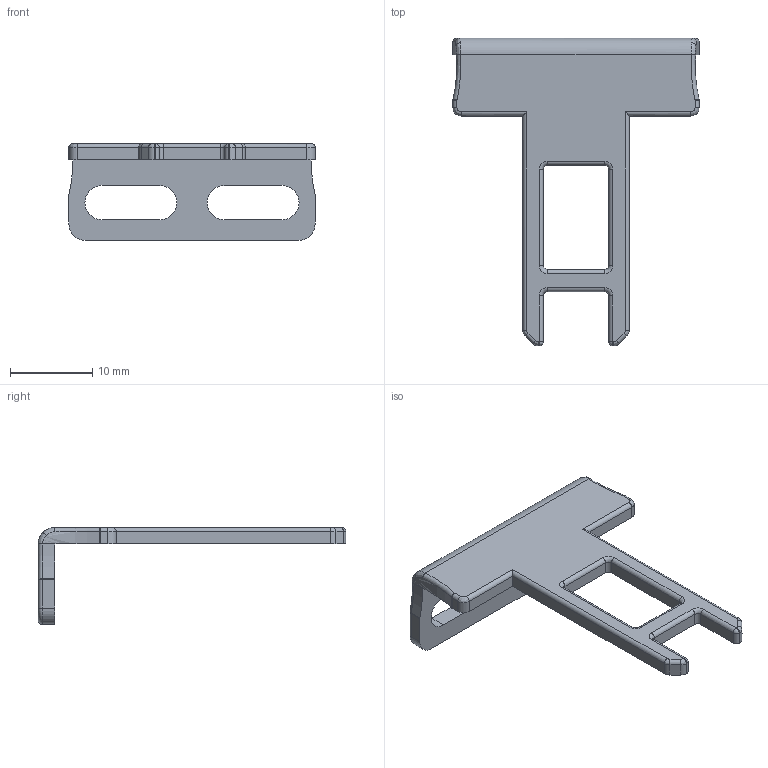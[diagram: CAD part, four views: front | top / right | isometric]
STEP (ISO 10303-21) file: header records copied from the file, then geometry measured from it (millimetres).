
FILE_DESCRIPTION((''),'2;1');
FILE_NAME('WANYAOSHI_7','2022-03-05T',('Administrator'),(''),'PRO/ENGINEER BY PARAMETRIC TECHNOLOGY CORPORATION, 2010280','PRO/ENGINEER BY PARAMETRIC TECHNOLOGY CORPORATION, 2010280','');
FILE_SCHEMA(('CONFIG_CONTROL_DESIGN'));
Length unit declared in the file: millimetre
Products named in the file (1): WANYAOSHI_7
Bounding box: 30 x 37.5 x 11.8 mm (x, y, z)
Volume: 1342.7 mm3; surface area: 1823.4 mm2
Topology: 1 solids, 1 shells, 105 faces, 276 edges, 167 vertices
Faces by surface type: cylinder 49, plane 28, torus 12, bspline 10, sphere 6
Entity records: 3468 total; most frequent: CARTESIAN_POINT 834, DIRECTION 571, ORIENTED_EDGE 540, EDGE_CURVE 270, AXIS2_PLACEMENT_3D 223, VERTEX_POINT 167, CIRCLE 128, VECTOR 125
